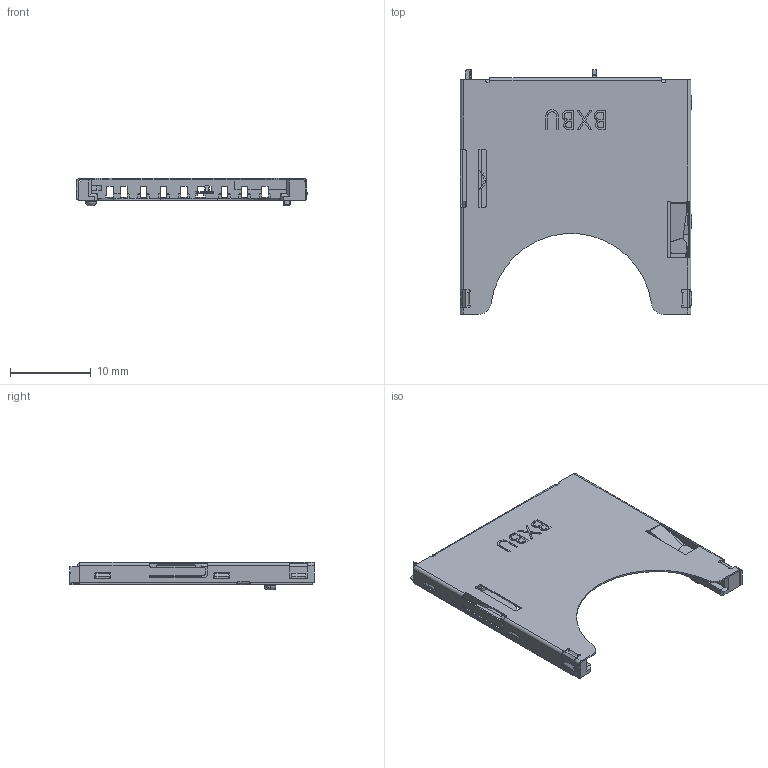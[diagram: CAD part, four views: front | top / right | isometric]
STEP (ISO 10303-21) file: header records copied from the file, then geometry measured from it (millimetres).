
FILE_DESCRIPTION (( 'STEP AP203' ), '1' );
FILE_NAME ('Q6049-29.0L.STEP', '2026-09-18T06:06:36', ( '' ), ( '' ), 'SwSTEP 2.0', 'SolidWorks 2024', '' );
FILE_SCHEMA (( 'CONFIG_CONTROL_DESIGN' ));
Length unit declared in the file: millimetre
Products named in the file (5): Q6049-29.0L; SD-PUSH-SHLLE; SD-PUSH-CD; SD-PUSH-HOUSING; SD-PUSH-WP
Assembly tree (4 placements, depth 2):
  Q6049-29.0L
    SD-PUSH-HOUSING
    SD-PUSH-CD
    SD-PUSH-WP
    SD-PUSH-SHLLE
Bounding box: 28.55 x 30.25 x 3.43 mm (x, y, z)
Volume: 480.6 mm3; surface area: 3000.7 mm2
Topology: 4 solids, 4 shells, 766 faces, 2203 edges, 1428 vertices
Faces by surface type: plane 519, cylinder 178, bspline 63, sphere 4, torus 2
Entity records: 28292 total; most frequent: CARTESIAN_POINT 7740, ORIENTED_EDGE 4404, DIRECTION 3837, EDGE_CURVE 2202, VECTOR 1739, LINE 1739, VERTEX_POINT 1428, AXIS2_PLACEMENT_3D 1049
